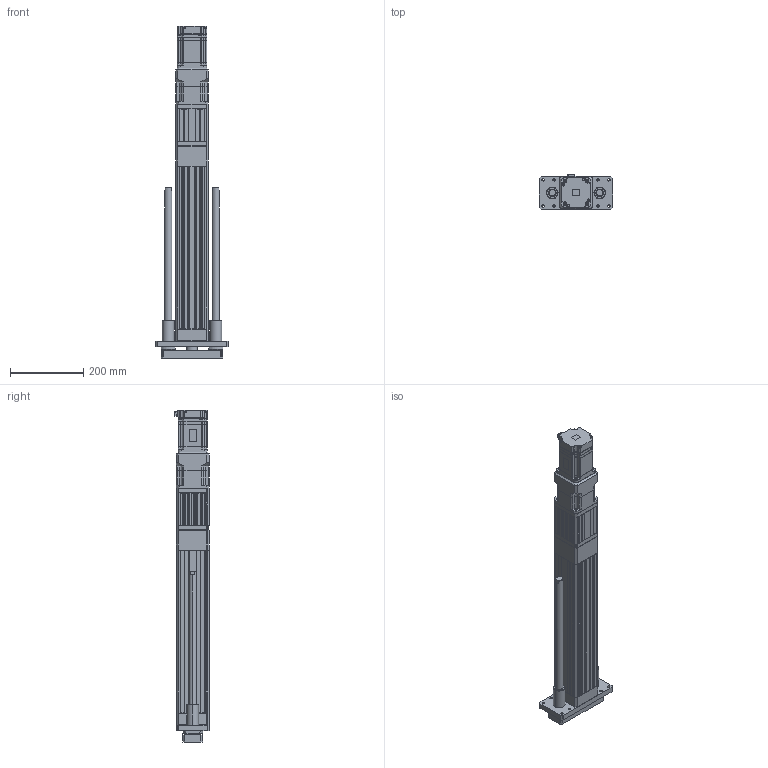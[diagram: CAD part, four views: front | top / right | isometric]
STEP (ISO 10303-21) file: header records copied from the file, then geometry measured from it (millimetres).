
FILE_DESCRIPTION (( 'STEP AP203' ), '1' );
FILE_NAME ('ANS090H-GS300-05(10)(25)-W75G05.STEP', '2019-03-18T01:59:15', ( 'user' ), ( '' ), 'SwSTEP 2.0', 'SolidWorks 2013', '' );
FILE_SCHEMA (( 'CONFIG_CONTROL_DESIGN' ));
Length unit declared in the file: millimetre
Products named in the file (5): ANS090 ROD ST300-G; SGMJV_08A_A21; AB090-005-S1-P2[YASKAWA SGMJV08A]; ANS090H-GS300-05(10)(25)-W75G05; ANS090H GS300 VER2
Assembly tree (4 placements, depth 2):
  ANS090H-GS300-05(10)(25)-W75G05
    ANS090H GS300 VER2
    ANS090 ROD ST300-G
    SGMJV_08A_A21
    AB090-005-S1-P2[YASKAWA SGMJV08A]
Bounding box: 200 x 93.8 x 908.1 mm (x, y, z)
Volume: 4233736.2 mm3; surface area: 802420.6 mm2
Topology: 3 solids, 14 shells, 1903 faces, 5056 edges, 3262 vertices
Faces by surface type: plane 1124, cylinder 581, cone 182, bspline 12, torus 4
Entity records: 59660 total; most frequent: CARTESIAN_POINT 11290, ORIENTED_EDGE 9984, DIRECTION 9947, EDGE_CURVE 5036, VECTOR 3517, LINE 3517, VERTEX_POINT 3262, AXIS2_PLACEMENT_3D 3215
